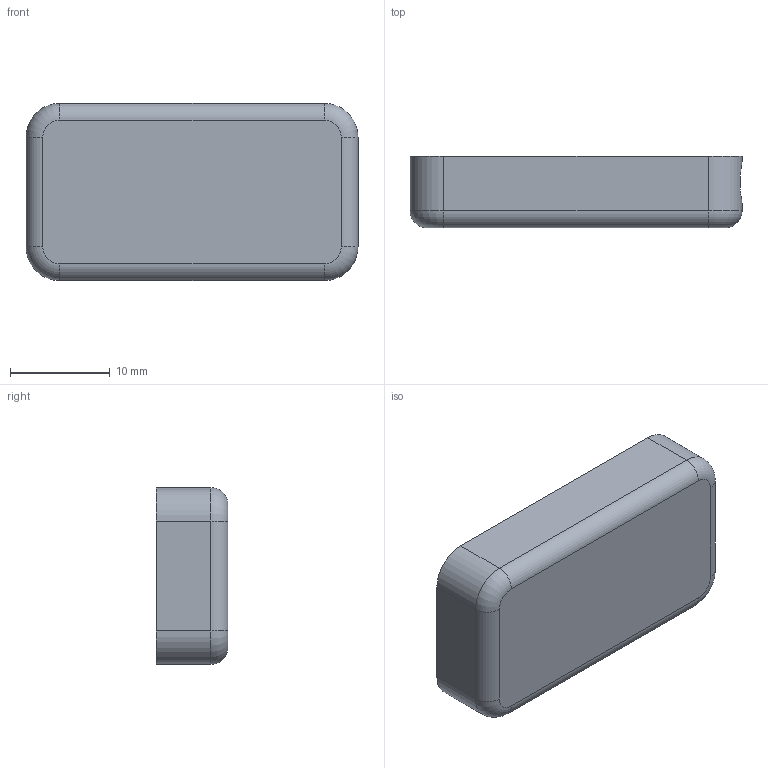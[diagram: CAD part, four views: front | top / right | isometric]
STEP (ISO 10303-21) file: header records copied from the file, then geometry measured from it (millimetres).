
FILE_DESCRIPTION(/* description */ ('STEP AP242 Edition 2','CAx-IF Rec.Pracs.---Representation and Presentation of Product Manufacturing Information (PMI)---4.0---2014-10-13','CAx-IF Rec.Pracs.---3D Tessellated Geometry---0.4---2014-09-14','2;1','CAx-IF Rec.Pracs.---User Defined Attributes---1.5---2016-08-15'),/* implementation_level */ '2;1');
FILE_NAME(/* name */ 'Assembly 1 - Part 7',/* time_stamp */ '2026-10-02T23:42:51Z',/* author */ (''),/* organization */ (''),/* preprocessor_version */ 'ST-DEVELOPER v20',/* originating_system */ 'ONSHAPE BY PTC INC, 1.221',/* authorisation */ ' ');
FILE_SCHEMA (('AP242_MANAGED_MODEL_BASED_3D_ENGINEERING_MIM_LF { 1 0 10303 442 3 1 4 }'));
Length unit declared in the file: metre
Products named in the file (1): Part 7
Bounding box: 33.34 x 7.19 x 17.78 mm (x, y, z)
Volume: 706.2 mm3; surface area: 2267.1 mm2
Topology: 1 solids, 1 shells, 37 faces, 100 edges, 64 vertices
Faces by surface type: plane 17, cylinder 16, torus 4
Entity records: 1200 total; most frequent: CARTESIAN_POINT 226, DIRECTION 204, ORIENTED_EDGE 200, EDGE_CURVE 100, AXIS2_PLACEMENT_3D 74, VERTEX_POINT 64, LINE 56, VECTOR 56
